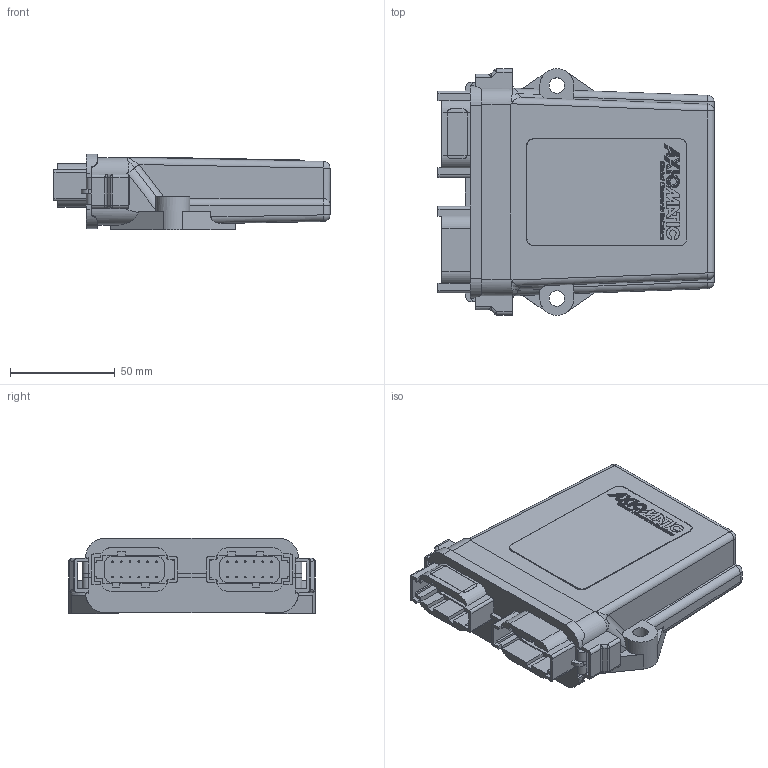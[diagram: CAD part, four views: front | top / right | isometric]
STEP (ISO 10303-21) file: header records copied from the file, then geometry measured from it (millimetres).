
FILE_DESCRIPTION(/* description */ (''),/* implementation_level */ '2;1');
FILE_NAME(/* name */ 'L:\AutoCAD_Libraries\inventor\CONNECTOR\generic 24 pin Deutsch enclosure.stp',/* time_stamp */ '2016-03-23T10:39:28-04:00',/* author */ ('tfisher'),/* organization */ (''),/* preprocessor_version */ 'ST-DEVELOPER v15.2',/* originating_system */ 'Autodesk Inventor 2014',/* authorisation */ '');
FILE_SCHEMA (('AUTOMOTIVE_DESIGN { 1 0 10303 214 3 1 1 }'));
Length unit declared in the file: inch
Products named in the file (1): 24 pin Deutsch enclosure for STEP
Bounding box: 131.75 x 117.86 x 36.09 mm (x, y, z)
Volume: 344574 mm3; surface area: 49917.6 mm2
Topology: 1 solids, 1 shells, 1315 faces, 3480 edges, 2285 vertices
Faces by surface type: plane 947, bspline 229, cylinder 128, sphere 10, torus 1
Full cylindrical faces by diameter (mm): 0.762 x24, 7.366 x2
Entity records: 42649 total; most frequent: CARTESIAN_POINT 10135, ORIENTED_EDGE 6890, DIRECTION 5436, EDGE_CURVE 3445, LINE 2704, VECTOR 2704, VERTEX_POINT 2285, EDGE_LOOP 1480
